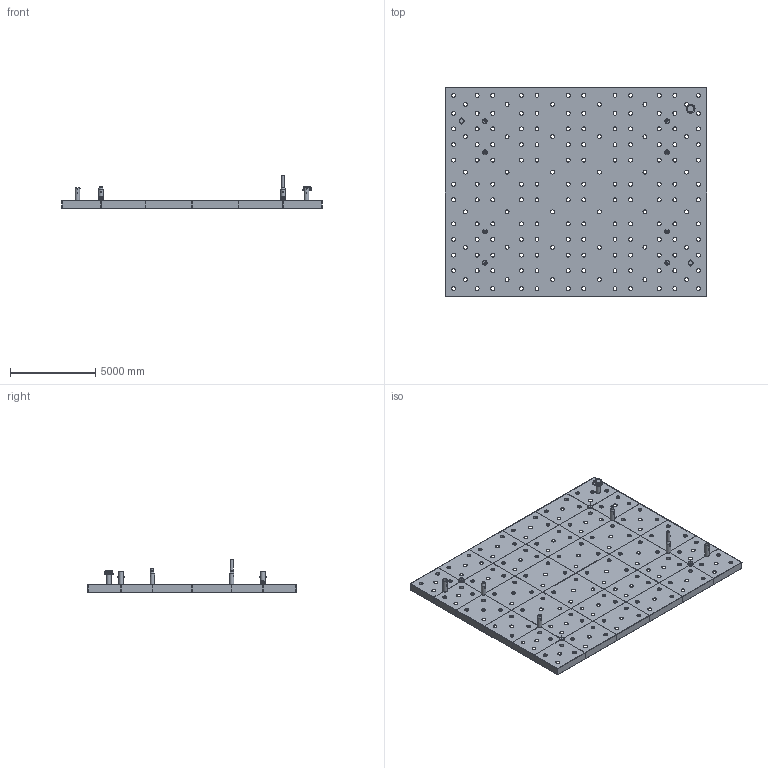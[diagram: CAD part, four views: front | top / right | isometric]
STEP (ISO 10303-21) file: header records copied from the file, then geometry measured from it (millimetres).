
FILE_DESCRIPTION(/* description */ (''),/* implementation_level */ '2;1');
FILE_NAME(/* name */ 'DU100133017_MUDMAT.stp',/* time_stamp */ '2013-06-03T14:06:05-05:00',/* author */ (''),/* organization */ (''),/* preprocessor_version */ 'ST-DEVELOPER v11',/* originating_system */ 'SIEMENS UGS NX 6.0',/* authorisation */ '');
FILE_SCHEMA (('AUTOMOTIVE_DESIGN { 1 0 10303 214 1 1 1 1 }'));
Length unit declared in the file: inch
Products named in the file (1): zepeF175tnyp
Bounding box: 15309.85 x 12236.45 x 1905 mm (x, y, z)
Surface area: 546355097 mm2 (no closed solid volume)
Topology: 0 solids, 143 shells, 494 faces, 1908 edges, 1515 vertices
Faces by surface type: plane 256, cylinder 234, cone 4
Full cylindrical faces by diameter (mm): 15.672 x3, 19.05 x2, 55.88 x4, 63.5 x3, 73.66 x2, 142.875 x1, 168.275 x4, 228.6 x174, 247.65 x3, 254 x2, 273.05 x11, 298.45 x5, 355.6 x1, 406.4 x2, 520.7 x1
Entity records: 21795 total; most frequent: CARTESIAN_POINT 5196, DIRECTION 3135, ORIENTED_EDGE 2216, EDGE_CURVE 1574, VERTEX_POINT 1405, EDGE_LOOP 1202, AXIS2_PLACEMENT_3D 1140, FACE_BOUND 979
